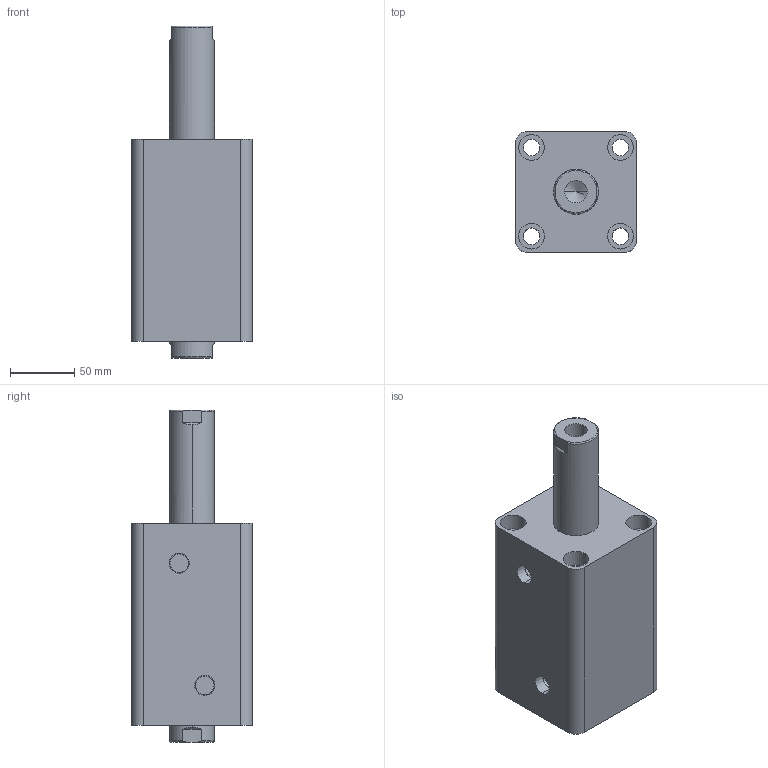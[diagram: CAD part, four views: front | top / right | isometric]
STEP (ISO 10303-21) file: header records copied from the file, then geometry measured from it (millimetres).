
FILE_DESCRIPTION (( 'STEP AP203' ), '1' );
FILE_NAME ('HTB-SW63-75N.STEP', '2019-10-07T10:07:35', ( '微软用户' ), ( '微软中国' ), 'SwSTEP 2.0', 'SolidWorks 2012', '' );
FILE_SCHEMA (( 'CONFIG_CONTROL_DESIGN' ));
Length unit declared in the file: millimetre
Products named in the file (3): HTB-SW63-75N; HTB-SW63-75N活塞杆; HTB-SW63-75掛极
Assembly tree (2 placements, depth 2):
  HTB-SW63-75N
    HTB-SW63-75掛极
    HTB-SW63-75N活塞杆
Bounding box: 94 x 94 x 258 mm (x, y, z)
Volume: 1194843.4 mm3; surface area: 168227.5 mm2
Topology: 2 solids, 2 shells, 100 faces, 228 edges, 146 vertices
Faces by surface type: cylinder 48, plane 32, torus 12, cone 8
Entity records: 3253 total; most frequent: CARTESIAN_POINT 611, DIRECTION 542, ORIENTED_EDGE 448, AXIS2_PLACEMENT_3D 229, EDGE_CURVE 224, VERTEX_POINT 146, EDGE_LOOP 128, CIRCLE 124
